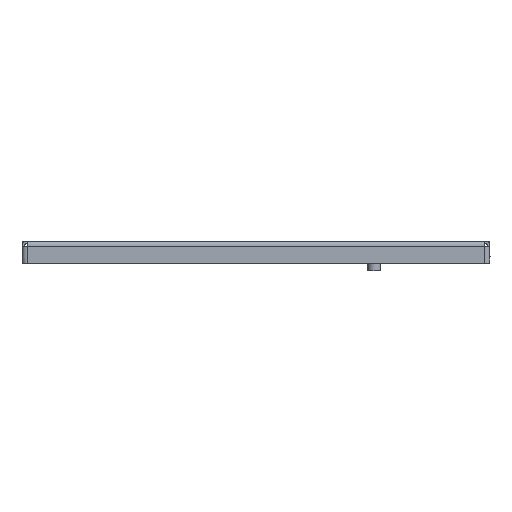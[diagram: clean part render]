
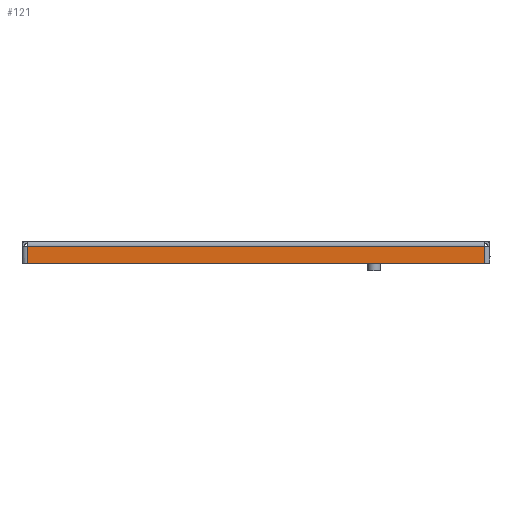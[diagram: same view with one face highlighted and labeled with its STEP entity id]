
A CAD part, left-side view. The second image highlights one B-rep face of the part: STEP entity #121.
In plain terms, the highlighted planar face has unit normal (-1, 0, 0).
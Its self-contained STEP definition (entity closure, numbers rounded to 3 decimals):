
#121=ADVANCED_FACE('',(#1225),#1227,.F.);
#1225=FACE_BOUND('',#1226,.T.);
#1226=EDGE_LOOP('',(#5314,#5315,#5316,#5317));
#1227=PLANE('',#1228);
#1228=AXIS2_PLACEMENT_3D('',#1229,#1230,#1231);
#1229=CARTESIAN_POINT('',(-293.2,0.,0.));
#1230=DIRECTION('',(1.,0.,0.));
#1231=DIRECTION('',(0.,0.,-1.));
#5314=ORIENTED_EDGE('',*,*,#7791,.F.);
#5315=ORIENTED_EDGE('',*,*,#7793,.F.);
#5316=ORIENTED_EDGE('',*,*,#7794,.F.);
#5317=ORIENTED_EDGE('',*,*,#7795,.F.);
#7791=EDGE_CURVE('',#9785,#9778,#9789,.T.);
#7793=EDGE_CURVE('',#9791,#9785,#9792,.T.);
#7794=EDGE_CURVE('',#9793,#9791,#9794,.T.);
#7795=EDGE_CURVE('',#9778,#9793,#9795,.T.);
#9778=VERTEX_POINT('',#13527);
#9785=VERTEX_POINT('',#13547);
#9789=LINE('',#13558,#13559);
#9791=VERTEX_POINT('',#13564);
#9792=LINE('',#13565,#13566);
#9793=VERTEX_POINT('',#13568);
#9794=LINE('',#13569,#13570);
#9795=LINE('',#13572,#13573);
#13527=CARTESIAN_POINT('',(-293.2,-145.3,-3.2));
#13547=CARTESIAN_POINT('',(-293.2,145.3,-3.2));
#13558=CARTESIAN_POINT('',(-293.2,145.3,-3.2));
#13559=VECTOR('',#13560,1.);
#13560=DIRECTION('',(0.,-1.,0.));
#13564=CARTESIAN_POINT('',(-293.2,145.3,-14.));
#13565=CARTESIAN_POINT('',(-293.2,145.3,-14.));
#13566=VECTOR('',#13567,1.);
#13567=DIRECTION('',(0.,0.,1.));
#13568=CARTESIAN_POINT('',(-293.2,-145.3,-14.));
#13569=CARTESIAN_POINT('',(-293.2,-145.3,-14.));
#13570=VECTOR('',#13571,1.);
#13571=DIRECTION('',(0.,1.,0.));
#13572=CARTESIAN_POINT('',(-293.2,-145.3,-3.2));
#13573=VECTOR('',#13574,1.);
#13574=DIRECTION('',(0.,0.,-1.));
